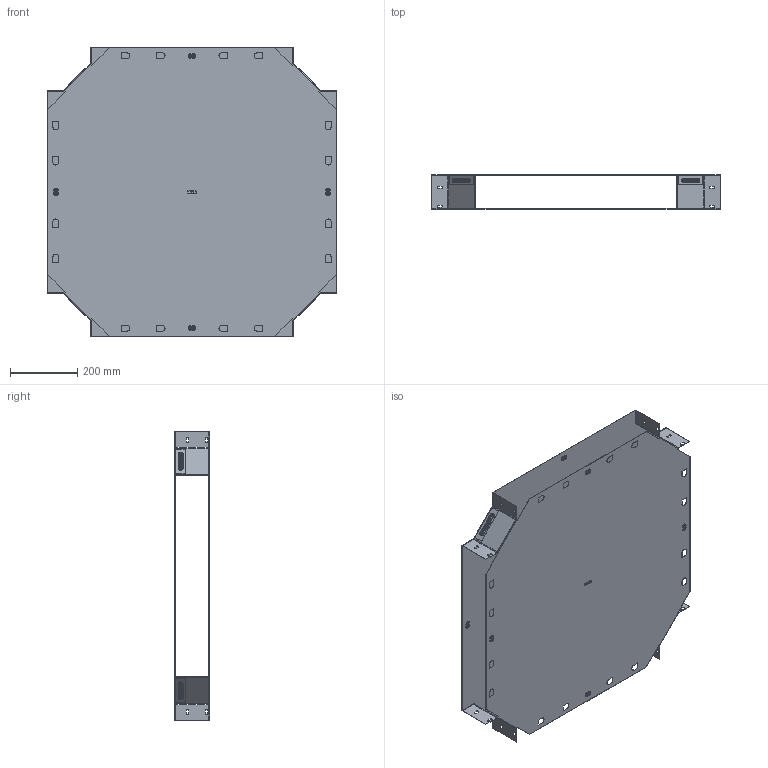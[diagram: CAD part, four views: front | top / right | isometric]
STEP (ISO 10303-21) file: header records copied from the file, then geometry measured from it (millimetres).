
FILE_DESCRIPTION (( 'STEP AP214' ), '1' );
FILE_NAME ('x10060008_捘.STEP', '2019-06-10T07:53:49', ( '砐錪賧瘔蠈錪 Windows' ), ( '' ), 'SwSTEP 2.0', 'SolidWorks 2018', '' );
FILE_SCHEMA (( 'AUTOMOTIVE_DESIGN' ));
Length unit declared in the file: millimetre
Products named in the file (1): x10060008_捘
Bounding box: 855.01 x 103.8 x 855.01 mm (x, y, z)
Volume: 1144213.8 mm3; surface area: 2869799.9 mm2
Topology: 2 solids, 2 shells, 1112 faces, 3384 edges, 2208 vertices
Faces by surface type: plane 598, cylinder 368, torus 128, bspline 18
Entity records: 39063 total; most frequent: CARTESIAN_POINT 7663, ORIENTED_EDGE 6768, DIRECTION 6466, EDGE_CURVE 3384, VECTOR 2420, LINE 2420, VERTEX_POINT 2208, AXIS2_PLACEMENT_3D 2023
